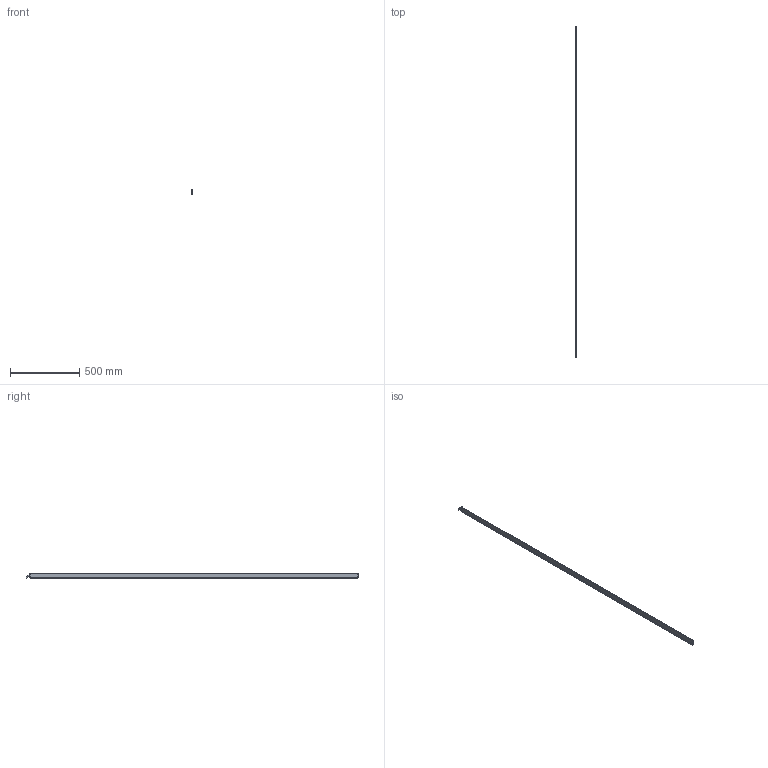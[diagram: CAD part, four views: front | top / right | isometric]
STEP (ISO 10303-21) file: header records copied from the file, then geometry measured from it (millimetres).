
FILE_DESCRIPTION (( 'STEP AP214' ), '1' );
FILE_NAME ('ILG-L-K1-2362mm.STEP', '2017-07-11T07:19:47', ( '' ), ( '' ), 'SwSTEP 2.0', 'SolidWorks 2016', '' );
FILE_SCHEMA (( 'AUTOMOTIVE_DESIGN' ));
Length unit declared in the file: millimetre
Products named in the file (1): ILG-L-K1-2362mm
Bounding box: 9 x 2390.25 x 40.71 mm (x, y, z)
Volume: 332662.7 mm3; surface area: 463557.6 mm2
Topology: 9 solids, 9 shells, 432 faces, 1114 edges, 702 vertices
Faces by surface type: plane 205, cylinder 153, cone 64, torus 10
Entity records: 18006 total; most frequent: CARTESIAN_POINT 2397, DIRECTION 2342, ORIENTED_EDGE 2212, EDGE_CURVE 1106, AXIS2_PLACEMENT_3D 855, VERTEX_POINT 702, VECTOR 632, LINE 632
